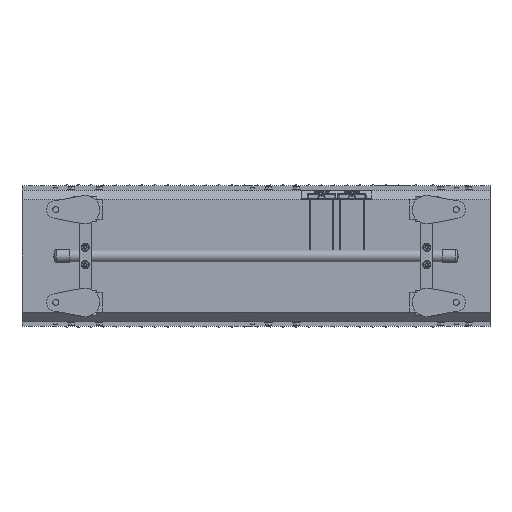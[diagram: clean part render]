
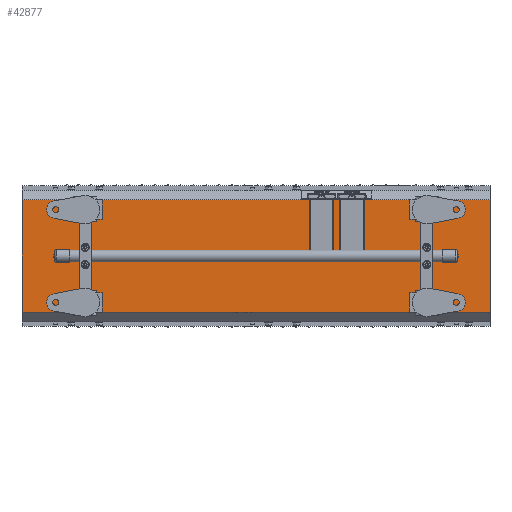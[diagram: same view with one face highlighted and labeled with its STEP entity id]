
A CAD part, front view. The second image highlights one B-rep face of the part: STEP entity #42877.
In plain terms, the highlighted planar face has unit normal (0, -1, 0).
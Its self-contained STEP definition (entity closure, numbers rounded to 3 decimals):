
#1 = ORIENTED_EDGE ( 'NONE', *, *, #5230, .T. ) ;
#2288 = CARTESIAN_POINT ( 'NONE',  ( 1352.908, -215.213, 119.787 ) ) ;
#3763 = ORIENTED_EDGE ( 'NONE', *, *, #27968, .T. ) ;
#5230 = EDGE_CURVE ( 'NONE', #55753, #24949, #39821, .T. ) ;
#5453 = DIRECTION ( 'NONE',  ( -1., 0., 0. ) ) ;
#6840 = VECTOR ( 'NONE', #43512, 1000. ) ;
#7876 = EDGE_CURVE ( 'NONE', #58121, #24949, #45259, .T. ) ;
#15886 = DIRECTION ( 'NONE',  ( 0., 1., 0. ) ) ;
#16923 = DIRECTION ( 'NONE',  ( 0., 0., -1. ) ) ;
#17647 = VECTOR ( 'NONE', #21593, 1000. ) ;
#20969 = ORIENTED_EDGE ( 'NONE', *, *, #42329, .T. ) ;
#21593 = DIRECTION ( 'NONE',  ( 0., 0., 1. ) ) ;
#24484 = CARTESIAN_POINT ( 'NONE',  ( 1000., -215.213, -119.787 ) ) ;
#24949 = VERTEX_POINT ( 'NONE', #24992 ) ;
#24992 = CARTESIAN_POINT ( 'NONE',  ( 0., -215.213, -119.787 ) ) ;
#25206 = AXIS2_PLACEMENT_3D ( 'NONE', #2288, #15886, #48653 ) ;
#25428 = CARTESIAN_POINT ( 'NONE',  ( 1000., -215.213, -119.787 ) ) ;
#25553 = CARTESIAN_POINT ( 'NONE',  ( 1352.908, -215.213, 119.787 ) ) ;
#27968 = EDGE_CURVE ( 'NONE', #44327, #55753, #55497, .T. ) ;
#28825 = VECTOR ( 'NONE', #5453, 1000. ) ;
#34796 = LINE ( 'NONE', #37937, #17647 ) ;
#37937 = CARTESIAN_POINT ( 'NONE',  ( 1000., -215.213, 119.787 ) ) ;
#39821 = LINE ( 'NONE', #43692, #40560 ) ;
#39900 = CARTESIAN_POINT ( 'NONE',  ( 0., -215.213, 119.787 ) ) ;
#40560 = VECTOR ( 'NONE', #16923, 1000. ) ;
#42329 = EDGE_CURVE ( 'NONE', #58121, #44327, #34796, .T. ) ;
#42877 = ADVANCED_FACE ( 'NONE', ( #44026 ), #48457, .F. ) ;
#43355 = ORIENTED_EDGE ( 'NONE', *, *, #7876, .F. ) ;
#43512 = DIRECTION ( 'NONE',  ( -1., 0., 0. ) ) ;
#43692 = CARTESIAN_POINT ( 'NONE',  ( 0., -215.213, 119.787 ) ) ;
#44026 = FACE_OUTER_BOUND ( 'NONE', #49254, .T. ) ;
#44327 = VERTEX_POINT ( 'NONE', #55051 ) ;
#45259 = LINE ( 'NONE', #24484, #28825 ) ;
#48457 = PLANE ( 'NONE',  #25206 ) ;
#48653 = DIRECTION ( 'NONE',  ( 0., 0., 1. ) ) ;
#49254 = EDGE_LOOP ( 'NONE', ( #43355, #20969, #3763, #1 ) ) ;
#55051 = CARTESIAN_POINT ( 'NONE',  ( 1000., -215.213, 119.787 ) ) ;
#55497 = LINE ( 'NONE', #25553, #6840 ) ;
#55753 = VERTEX_POINT ( 'NONE', #39900 ) ;
#58121 = VERTEX_POINT ( 'NONE', #25428 ) ;
